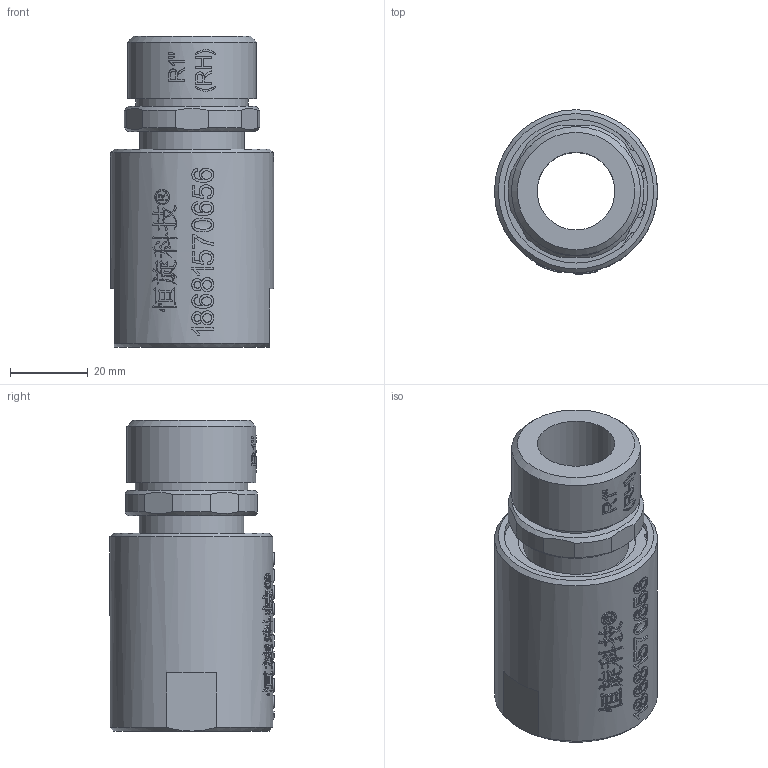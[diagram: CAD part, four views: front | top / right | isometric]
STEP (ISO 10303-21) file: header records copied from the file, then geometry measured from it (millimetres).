
FILE_DESCRIPTION(/* description */ (''),/* implementation_level */ '2;1');
FILE_NAME(/* name */ 'HQK0108(RH)-3D模型.stp',/* time_stamp */ '2025-07-08T17:49:36+08:00',/* author */ (''),/* organization */ (''),/* preprocessor_version */ 'ST-DEVELOPER v16.7',/* originating_system */ 'SIEMENS PLM Software NX 12.0',/* authorisation */ '');
FILE_SCHEMA (('AUTOMOTIVE_DESIGN { 1 0 10303 214 3 1 1 1 }'));
Length unit declared in the file: millimetre
Products named in the file (1): Admi1E18C0B728fy
Bounding box: 42 x 42.3 x 80.1 mm (x, y, z)
Volume: 60829.2 mm3; surface area: 19391.7 mm2
Topology: 1 solids, 1 shells, 815 faces, 2249 edges, 1500 vertices
Faces by surface type: extrusion 428, plane 298, cylinder 43, bspline 40, cone 6
Full cylindrical faces by diameter (mm): 2.364 x2, 20 x1, 27 x1, 29 x1, 30.3 x1, 33.2 x1, 37 x1, 39 x1, 42 x1
Entity records: 33408 total; most frequent: CARTESIAN_POINT 16008, ORIENTED_EDGE 4454, EDGE_CURVE 2227, B_SPLINE_CURVE_WITH_KNOTS 2164, DIRECTION 1849, VERTEX_POINT 1492, EDGE_LOOP 895, ADVANCED_FACE 815
